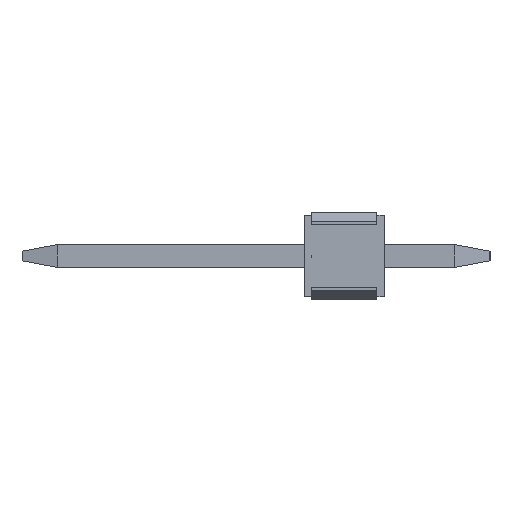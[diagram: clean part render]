
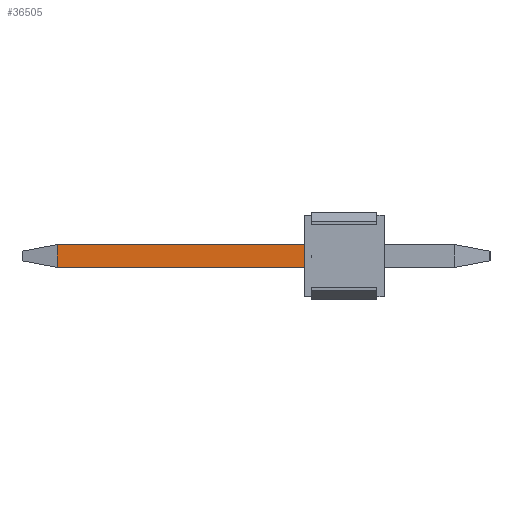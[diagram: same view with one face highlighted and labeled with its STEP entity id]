
A CAD part, left-side view. The second image highlights one B-rep face of the part: STEP entity #36505.
In plain terms, the highlighted planar face has unit normal (-1, 0, 0).
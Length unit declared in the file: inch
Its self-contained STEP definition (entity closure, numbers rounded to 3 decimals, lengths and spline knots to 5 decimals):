
#1837=DIRECTION('',(0.,0.,-1.));
#1838=VECTOR('',#1837,0.026);
#1839=CARTESIAN_POINT('',(-1.163,0.037,0.013));
#1840=LINE('',#1839,#1838);
#12697=DIRECTION('',(0.,0.,-1.));
#12698=VECTOR('',#12697,0.026);
#12699=CARTESIAN_POINT('',(-1.163,0.325,0.013));
#12700=LINE('',#12699,#12698);
#12701=DIRECTION('',(0.,-1.,0.));
#12702=VECTOR('',#12701,0.288);
#12703=CARTESIAN_POINT('',(-1.163,0.325,0.013));
#12704=LINE('',#12703,#12702);
#12705=DIRECTION('',(0.,1.,0.));
#12706=VECTOR('',#12705,0.288);
#12707=CARTESIAN_POINT('',(-1.163,0.037,-0.013));
#12708=LINE('',#12707,#12706);
#16169=CARTESIAN_POINT('',(-1.163,0.037,0.013));
#16170=CARTESIAN_POINT('',(-1.163,0.037,-0.013));
#16171=VERTEX_POINT('',#16169);
#16172=VERTEX_POINT('',#16170);
#16478=CARTESIAN_POINT('',(-1.163,0.325,-0.013));
#16480=VERTEX_POINT('',#16478);
#16485=CARTESIAN_POINT('',(-1.163,0.325,0.013));
#16486=VERTEX_POINT('',#16485);
#36491=CARTESIAN_POINT('',(-1.163,0.,0.));
#36492=DIRECTION('',(1.,0.,0.));
#36493=DIRECTION('',(0.,0.,-1.));
#36494=AXIS2_PLACEMENT_3D('',#36491,#36492,#36493);
#36495=PLANE('',#36494);
#36497=ORIENTED_EDGE('',*,*,#36496,.F.);
#36499=ORIENTED_EDGE('',*,*,#36498,.T.);
#36500=ORIENTED_EDGE('',*,*,#18156,.T.);
#36502=ORIENTED_EDGE('',*,*,#36501,.T.);
#36503=EDGE_LOOP('',(#36497,#36499,#36500,#36502));
#36504=FACE_OUTER_BOUND('',#36503,.F.);
#36505=ADVANCED_FACE('',(#36504),#36495,.F.);
#18156=EDGE_CURVE('',#16171,#16172,#1840,.T.);
#36496=EDGE_CURVE('',#16486,#16480,#12700,.T.);
#36498=EDGE_CURVE('',#16486,#16171,#12704,.T.);
#36501=EDGE_CURVE('',#16172,#16480,#12708,.T.);
